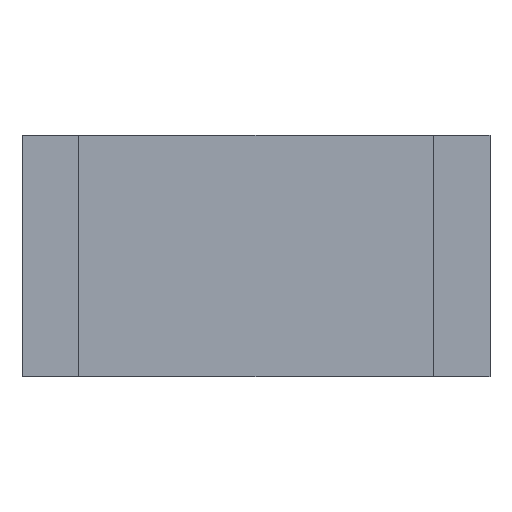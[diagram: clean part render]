
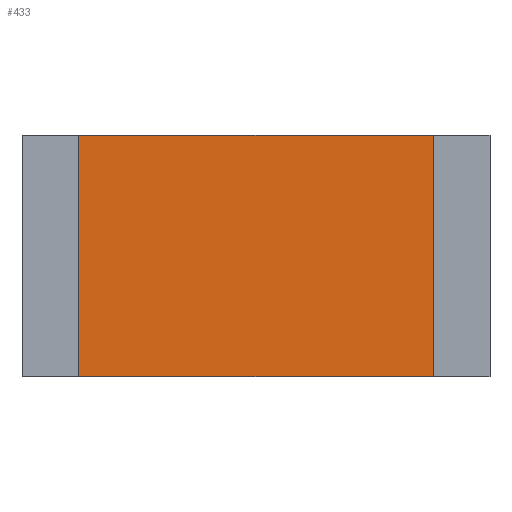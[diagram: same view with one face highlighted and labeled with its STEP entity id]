
A CAD part, top view. The second image highlights one B-rep face of the part: STEP entity #433.
In plain terms, the highlighted planar face has unit normal (0, 0, 1).
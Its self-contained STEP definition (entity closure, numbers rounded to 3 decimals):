
#433=ADVANCED_FACE('',(#872),#874,.F.);
#872=FACE_BOUND('',#873,.T.);
#873=EDGE_LOOP('',(#1180,#1181,#1182,#1183));
#874=PLANE('',#875);
#875=AXIS2_PLACEMENT_3D('',#876,#877,#878);
#876=CARTESIAN_POINT('',(0.,0.,0.6));
#877=DIRECTION('',(0.,0.,-1.));
#878=DIRECTION('',(1.,0.,0.));
#1180=ORIENTED_EDGE('',*,*,#1368,.F.);
#1181=ORIENTED_EDGE('',*,*,#1365,.F.);
#1182=ORIENTED_EDGE('',*,*,#1362,.F.);
#1183=ORIENTED_EDGE('',*,*,#1358,.F.);
#1358=EDGE_CURVE('',#1541,#1542,#1543,.T.);
#1362=EDGE_CURVE('',#1542,#1549,#1550,.T.);
#1365=EDGE_CURVE('',#1549,#1554,#1555,.T.);
#1368=EDGE_CURVE('',#1554,#1541,#1559,.T.);
#1541=VERTEX_POINT('',#1910);
#1542=VERTEX_POINT('',#1911);
#1543=LINE('',#1912,#1913);
#1549=VERTEX_POINT('',#1926);
#1550=LINE('',#1927,#1928);
#1554=VERTEX_POINT('',#1937);
#1555=LINE('',#1938,#1939);
#1559=LINE('',#1948,#1949);
#1910=CARTESIAN_POINT('',(2.35,-1.6,0.6));
#1911=CARTESIAN_POINT('',(-2.35,-1.6,0.6));
#1912=CARTESIAN_POINT('',(2.35,-1.6,0.6));
#1913=VECTOR('',#1914,1.);
#1914=DIRECTION('',(-1.,0.,0.));
#1926=CARTESIAN_POINT('',(-2.35,1.6,0.6));
#1927=CARTESIAN_POINT('',(-2.35,-1.6,0.6));
#1928=VECTOR('',#1929,1.);
#1929=DIRECTION('',(0.,1.,0.));
#1937=CARTESIAN_POINT('',(2.35,1.6,0.6));
#1938=CARTESIAN_POINT('',(-2.35,1.6,0.6));
#1939=VECTOR('',#1940,1.);
#1940=DIRECTION('',(1.,0.,0.));
#1948=CARTESIAN_POINT('',(2.35,1.6,0.6));
#1949=VECTOR('',#1950,1.);
#1950=DIRECTION('',(0.,-1.,0.));
